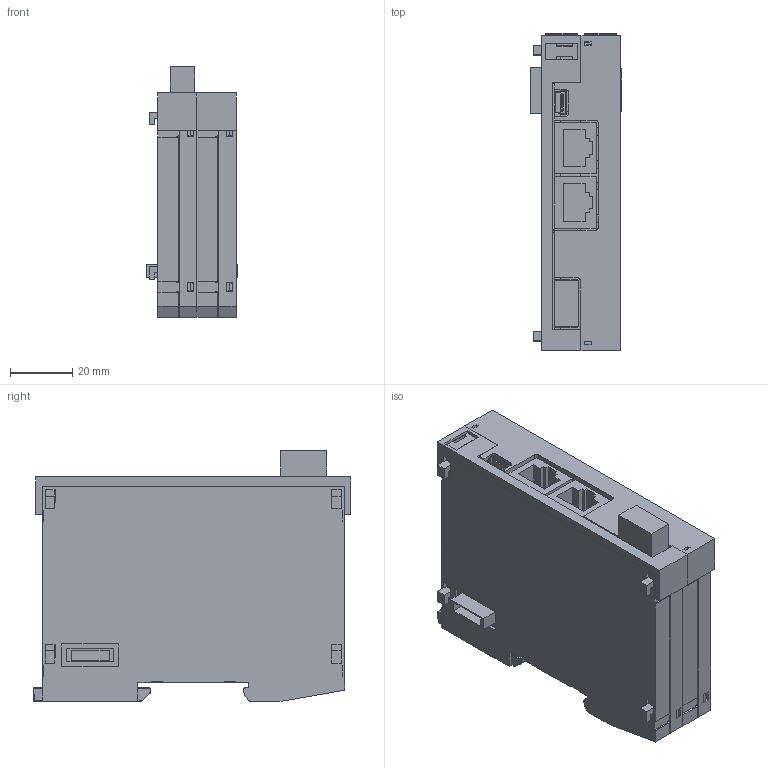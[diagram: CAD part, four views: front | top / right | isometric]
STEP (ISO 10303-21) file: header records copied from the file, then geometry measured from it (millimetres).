
FILE_DESCRIPTION (( 'STEP AP214' ), '1' );
FILE_NAME ('EC121 für Support.STEP', '2020-08-04T07:00:30', ( 'Windows-Benutzer' ), ( '' ), 'SwSTEP 2.0', 'SolidWorks 2018', '' );
FILE_SCHEMA (( 'AUTOMOTIVE_DESIGN' ));
Length unit declared in the file: millimetre
Products named in the file (15): Dummy_4080225241 MINI USB; Schieber_f Suport; S-Dias Doppelmodul Abdeckung Relais Support_EC121; Dummy_4110262104 4pol.Federkraftstecker f.2reih 1952283; Dummy_4110251205 4pol.Minicombicon-Grundgehäuse RM3,5 1937512; S-Dias Schale rechts_f Suport; Dummy_4080225346 Erni Stift; EC121 f黵 Support; Dummy_4080225345 Erni Buchse; 143300; ZM1505-2730-10 Rasthaken S-Dias; Dummy_4080225208 RJ45 Ethernet Buchse90 SMD; S-Dias Zwischenstück Doppelmodul; 143300 f黵 Support; S-Dias Schale links_f Suport
Assembly tree (17 placements, depth 3):
  EC121 f黵 Support
    S-Dias Schale links_f Suport
    S-Dias Schale rechts_f Suport
    Schieber_f Suport
    S-Dias Doppelmodul Abdeckung Relais Support_EC121
    S-Dias Zwischenstück Doppelmodul
    ZM1505-2730-10 Rasthaken S-Dias  x2
    143300 f黵 Support
      143300
      Dummy_4110251205 4pol.Minicombicon-Grundgehäuse RM3,5 1937512
      Dummy_4080225208 RJ45 Ethernet Buchse90 SMD  x2
      Dummy_4080225241 MINI USB
      Dummy_4080225346 Erni Stift
      Dummy_4080225345 Erni Buchse  x2
    Dummy_4110262104 4pol.Federkraftstecker f.2reih 1952283
Bounding box: 29.3 x 101.64 x 80.21 mm (x, y, z)
Volume: 44185.8 mm3; surface area: 71687.4 mm2
Topology: 17 solids, 17 shells, 1602 faces, 4635 edges, 3062 vertices
Faces by surface type: plane 1025, cylinder 343, bspline 144, cone 62, torus 24, sphere 4
Entity records: 48533 total; most frequent: CARTESIAN_POINT 10335, ORIENTED_EDGE 7402, DIRECTION 6222, EDGE_CURVE 3701, VECTOR 2790, LINE 2790, VERTEX_POINT 2441, AXIS2_PLACEMENT_3D 1716
